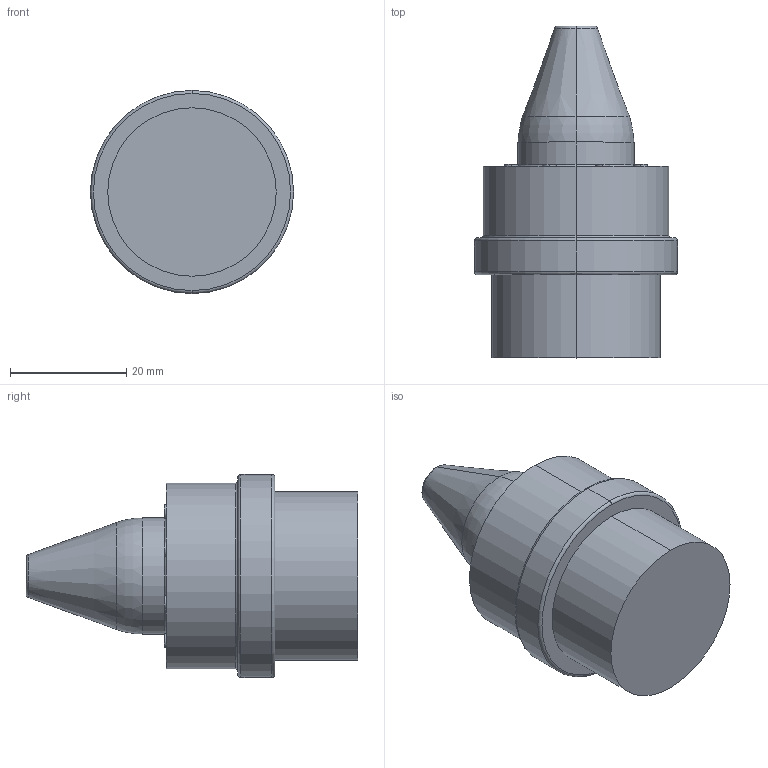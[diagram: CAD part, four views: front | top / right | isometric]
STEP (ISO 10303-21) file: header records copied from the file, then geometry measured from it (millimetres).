
FILE_DESCRIPTION (( 'STEP AP214' ), '1' );
FILE_NAME ('PA-20mm-3.8mm-P-W.stp', '2020-05-04T11:22:13', ( '' ), ( '' ), 'SwSTEP 2.0', 'SolidWorks 2017', '' );
FILE_SCHEMA (( 'AUTOMOTIVE_DESIGN' ));
Length unit declared in the file: inch
Products named in the file (1): PA-20mm-3.8mm-P-W
Bounding box: 35 x 57.19 x 35 mm (x, y, z)
Volume: 30272.2 mm3; surface area: 6042.4 mm2
Topology: 1 solids, 1 shells, 51 faces, 100 edges, 62 vertices
Faces by surface type: cylinder 24, plane 13, torus 12, cone 2
Entity records: 1376 total; most frequent: DIRECTION 278, CARTESIAN_POINT 214, ORIENTED_EDGE 200, AXIS2_PLACEMENT_3D 126, EDGE_CURVE 100, CIRCLE 74, EDGE_LOOP 62, VERTEX_POINT 62
